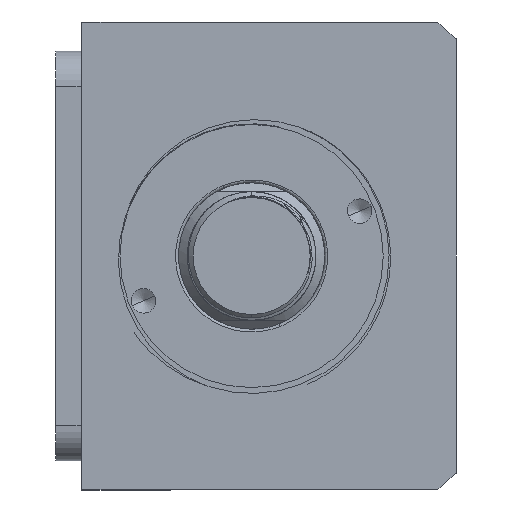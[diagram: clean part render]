
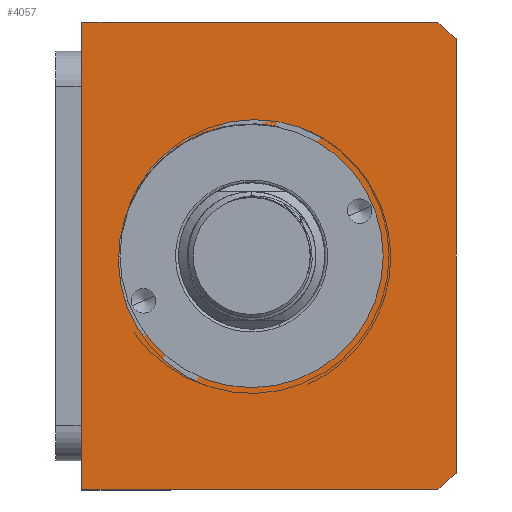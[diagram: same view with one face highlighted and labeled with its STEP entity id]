
A CAD part, front view. The second image highlights one B-rep face of the part: STEP entity #4057.
In plain terms, the highlighted planar face has unit normal (0, -1, 0) as drawn and (0, 0, 1) by its records, which use the part's own axes.
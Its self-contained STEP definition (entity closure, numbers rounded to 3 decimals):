
#271 = EDGE_CURVE ( 'NONE', #4921, #4054, #3840, .T. ) ;
#362 = EDGE_CURVE ( 'NONE', #3267, #4414, #6987, .T. ) ;
#494 = LINE ( 'NONE', #3627, #8636 ) ;
#518 = CARTESIAN_POINT ( 'NONE',  ( 0., -40.507, 80. ) ) ;
#788 = CARTESIAN_POINT ( 'NONE',  ( 22.5, -40.507, 80. ) ) ;
#1030 = VECTOR ( 'NONE', #3383, 1000. ) ;
#1105 = FACE_OUTER_BOUND ( 'NONE', #4401, .T. ) ;
#1128 = DIRECTION ( 'NONE',  ( 0., 0., 1. ) ) ;
#1590 = DIRECTION ( 'NONE',  ( 1., 0., 0. ) ) ;
#1591 = CARTESIAN_POINT ( 'NONE',  ( -40., -11.507, 80. ) ) ;
#1770 = CARTESIAN_POINT ( 'NONE',  ( -40., -75.507, 80. ) ) ;
#1984 = VECTOR ( 'NONE', #2837, 1000. ) ;
#2513 = CARTESIAN_POINT ( 'NONE',  ( -40., -11.507, 80. ) ) ;
#2627 = ORIENTED_EDGE ( 'NONE', *, *, #13752, .T. ) ;
#2731 = AXIS2_PLACEMENT_3D ( 'NONE', #518, #7939, #1590 ) ;
#2837 = DIRECTION ( 'NONE',  ( 1., 0., 0. ) ) ;
#2889 = DIRECTION ( 'NONE',  ( 0., 0., 1. ) ) ;
#3087 = CARTESIAN_POINT ( 'NONE',  ( 0., -40.507, 80. ) ) ;
#3160 = VERTEX_POINT ( 'NONE', #788 ) ;
#3213 = CARTESIAN_POINT ( 'NONE',  ( 0., 0., 80. ) ) ;
#3267 = VERTEX_POINT ( 'NONE', #11627 ) ;
#3383 = DIRECTION ( 'NONE',  ( -1., 0., 0. ) ) ;
#3581 = FACE_BOUND ( 'NONE', #10443, .T. ) ;
#3627 = CARTESIAN_POINT ( 'NONE',  ( 40., -11.507, 80. ) ) ;
#3840 = LINE ( 'NONE', #2513, #1030 ) ;
#4054 = VERTEX_POINT ( 'NONE', #10627 ) ;
#4057 = ADVANCED_FACE ( 'NONE', ( #3581, #1105 ), #4253, .T. ) ;
#4128 = DIRECTION ( 'NONE',  ( 1., 0., 0. ) ) ;
#4154 = ORIENTED_EDGE ( 'NONE', *, *, #362, .T. ) ;
#4253 = PLANE ( 'NONE',  #13107 ) ;
#4277 = AXIS2_PLACEMENT_3D ( 'NONE', #7460, #5726, #5830 ) ;
#4401 = EDGE_LOOP ( 'NONE', ( #4881, #4154, #2627, #6181, #13556, #8133 ) ) ;
#4414 = VERTEX_POINT ( 'NONE', #13411 ) ;
#4762 = CIRCLE ( 'NONE', #2731, 51. ) ;
#4825 = AXIS2_PLACEMENT_3D ( 'NONE', #3087, #10495, #4128 ) ;
#4881 = ORIENTED_EDGE ( 'NONE', *, *, #11664, .T. ) ;
#4907 = CARTESIAN_POINT ( 'NONE',  ( -22.5, -40.507, 80. ) ) ;
#4921 = VERTEX_POINT ( 'NONE', #12346 ) ;
#4988 = EDGE_CURVE ( 'NONE', #6041, #3160, #12390, .T. ) ;
#5726 = DIRECTION ( 'NONE',  ( 0., 0., 1. ) ) ;
#5830 = DIRECTION ( 'NONE',  ( 1., 0., 0. ) ) ;
#6041 = VERTEX_POINT ( 'NONE', #4907 ) ;
#6181 = ORIENTED_EDGE ( 'NONE', *, *, #7206, .T. ) ;
#6746 = CARTESIAN_POINT ( 'NONE',  ( 37.094, -75.507, 80. ) ) ;
#6987 = CIRCLE ( 'NONE', #4277, 51. ) ;
#7206 = EDGE_CURVE ( 'NONE', #12434, #11484, #4762, .T. ) ;
#7460 = CARTESIAN_POINT ( 'NONE',  ( 0., -40.507, 80. ) ) ;
#7594 = LINE ( 'NONE', #1770, #1984 ) ;
#7939 = DIRECTION ( 'NONE',  ( 0., 0., 1. ) ) ;
#8133 = ORIENTED_EDGE ( 'NONE', *, *, #271, .T. ) ;
#8168 = VECTOR ( 'NONE', #11141, 1000. ) ;
#8480 = ORIENTED_EDGE ( 'NONE', *, *, #10091, .F. ) ;
#8557 = DIRECTION ( 'NONE',  ( 1., 0., 0. ) ) ;
#8636 = VECTOR ( 'NONE', #12408, 1000. ) ;
#9235 = CARTESIAN_POINT ( 'NONE',  ( 0., -40.507, 80. ) ) ;
#9280 = ORIENTED_EDGE ( 'NONE', *, *, #4988, .F. ) ;
#10091 = EDGE_CURVE ( 'NONE', #3160, #6041, #11830, .T. ) ;
#10298 = DIRECTION ( 'NONE',  ( 1., 0., 0. ) ) ;
#10443 = EDGE_LOOP ( 'NONE', ( #8480, #9280 ) ) ;
#10495 = DIRECTION ( 'NONE',  ( 0., 0., 1. ) ) ;
#10627 = CARTESIAN_POINT ( 'NONE',  ( -40., -11.507, 80. ) ) ;
#10629 = LINE ( 'NONE', #1591, #8168 ) ;
#10987 = CARTESIAN_POINT ( 'NONE',  ( 40., -72.145, 80. ) ) ;
#11141 = DIRECTION ( 'NONE',  ( 0., -1., 0. ) ) ;
#11484 = VERTEX_POINT ( 'NONE', #10987 ) ;
#11627 = CARTESIAN_POINT ( 'NONE',  ( -40., -72.145, 80. ) ) ;
#11664 = EDGE_CURVE ( 'NONE', #4054, #3267, #10629, .T. ) ;
#11830 = CIRCLE ( 'NONE', #4825, 22.5 ) ;
#11867 = AXIS2_PLACEMENT_3D ( 'NONE', #9235, #2889, #10298 ) ;
#12346 = CARTESIAN_POINT ( 'NONE',  ( 40., -11.507, 80. ) ) ;
#12390 = CIRCLE ( 'NONE', #11867, 22.5 ) ;
#12408 = DIRECTION ( 'NONE',  ( 0., 1., 0. ) ) ;
#12434 = VERTEX_POINT ( 'NONE', #6746 ) ;
#13107 = AXIS2_PLACEMENT_3D ( 'NONE', #3213, #1128, #8557 ) ;
#13146 = EDGE_CURVE ( 'NONE', #11484, #4921, #494, .T. ) ;
#13411 = CARTESIAN_POINT ( 'NONE',  ( -37.094, -75.507, 80. ) ) ;
#13556 = ORIENTED_EDGE ( 'NONE', *, *, #13146, .T. ) ;
#13752 = EDGE_CURVE ( 'NONE', #4414, #12434, #7594, .T. ) ;
